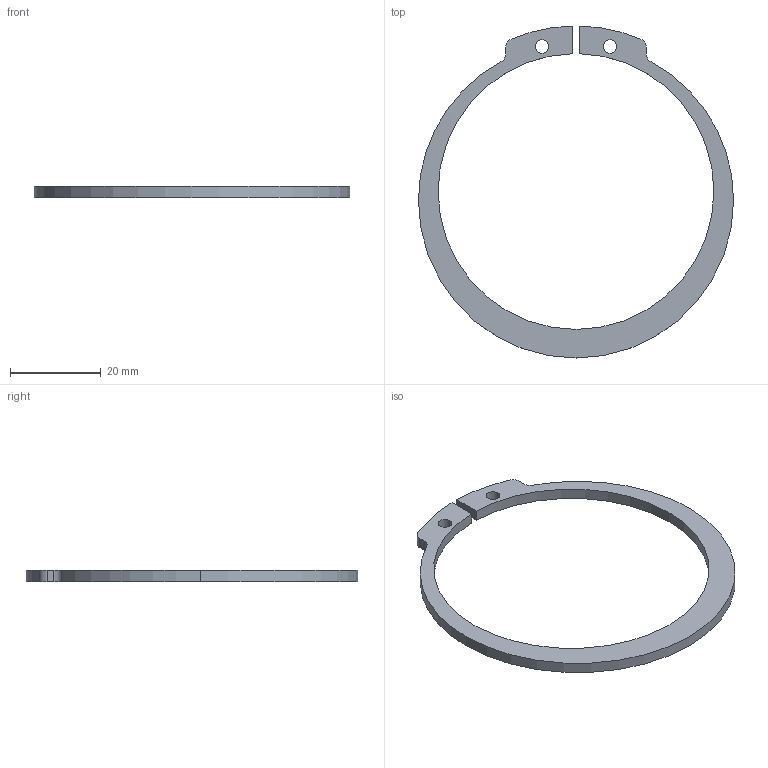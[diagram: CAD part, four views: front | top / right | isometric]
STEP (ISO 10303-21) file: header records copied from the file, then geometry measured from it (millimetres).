
FILE_DESCRIPTION(('CATIA V5 STEP Exchange'),'2;1');
FILE_NAME('C:\Users\Utente\Desktop\IO LAVORO\3D X SITO CF\X SITO\PLASTICA\553S\553S-R66.stp','2021-04-21T09:13:18+00:00',('none'),('none'),'CATIA Version 5 Release 20 GA (IN-10)','CATIA V5 STEP AP203','none');
FILE_SCHEMA(('CONFIG_CONTROL_DESIGN'));
Length unit declared in the file: millimetre
Products named in the file (1): 553S-R66
Bounding box: 69.5 x 73.19 x 2.5 mm (x, y, z)
Volume: 2459 mm3; surface area: 3077.2 mm2
Topology: 1 solids, 1 shells, 22 faces, 60 edges, 40 vertices
Faces by surface type: cylinder 16, plane 6
Entity records: 724 total; most frequent: CARTESIAN_POINT 121, ORIENTED_EDGE 120, DIRECTION 100, EDGE_CURVE 60, AXIS2_PLACEMENT_3D 53, VERTEX_POINT 40, CIRCLE 32, VECTOR 28
